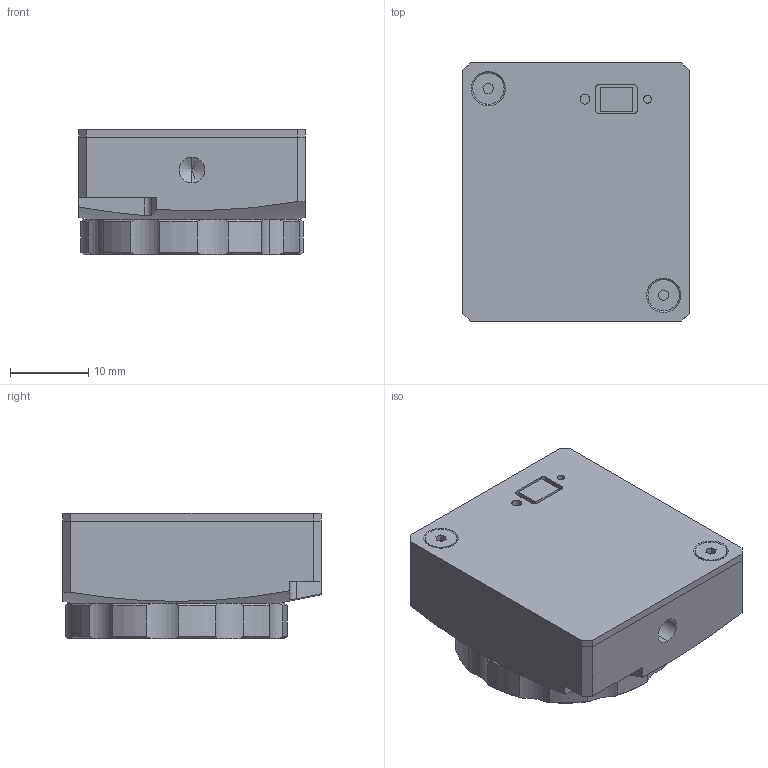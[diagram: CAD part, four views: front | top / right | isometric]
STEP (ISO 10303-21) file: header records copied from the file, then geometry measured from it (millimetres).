
FILE_DESCRIPTION (( 'STEP AP214' ), '1' );
FILE_NAME ('micro BeamPro.STEP', '2024-09-24T15:06:35', ( '' ), ( '' ), 'SwSTEP 2.0', 'SolidWorks 2020', '' );
FILE_SCHEMA (( 'AUTOMOTIVE_DESIGN' ));
Length unit declared in the file: millimetre
Products named in the file (8): BPRO-OPT-02_BPRO-OPT-02; MBPRO-BOX-01_Int‚rieur masqu‚; Pièce6^micro BeamPro; micro BeamPro; FHC_FHC-M2-L5 noire; MBPRO-BOX-02_MBPRO-BOX-02-C1; FHC_FHC-M2-L8 noire; Optique g幯廨ique_D20x2
Assembly tree (6 placements, depth 2):
  Pièce6^micro BeamPro
  micro BeamPro
    MBPRO-BOX-01_Int‚rieur masqu‚
    MBPRO-BOX-02_MBPRO-BOX-02-C1
    FHC_FHC-M2-L8 noire
    FHC_FHC-M2-L5 noire
    BPRO-OPT-02_BPRO-OPT-02
    Optique g幯廨ique_D20x2
Bounding box: 29 x 33 x 16 mm (x, y, z)
Volume: 10580.1 mm3; surface area: 8457.4 mm2
Topology: 6 solids, 6 shells, 217 faces, 550 edges, 354 vertices
Faces by surface type: cylinder 89, plane 88, cone 38, sphere 2
Entity records: 7134 total; most frequent: CARTESIAN_POINT 1377, DIRECTION 1147, ORIENTED_EDGE 1092, EDGE_CURVE 546, AXIS2_PLACEMENT_3D 436, VERTEX_POINT 354, VECTOR 275, LINE 275
